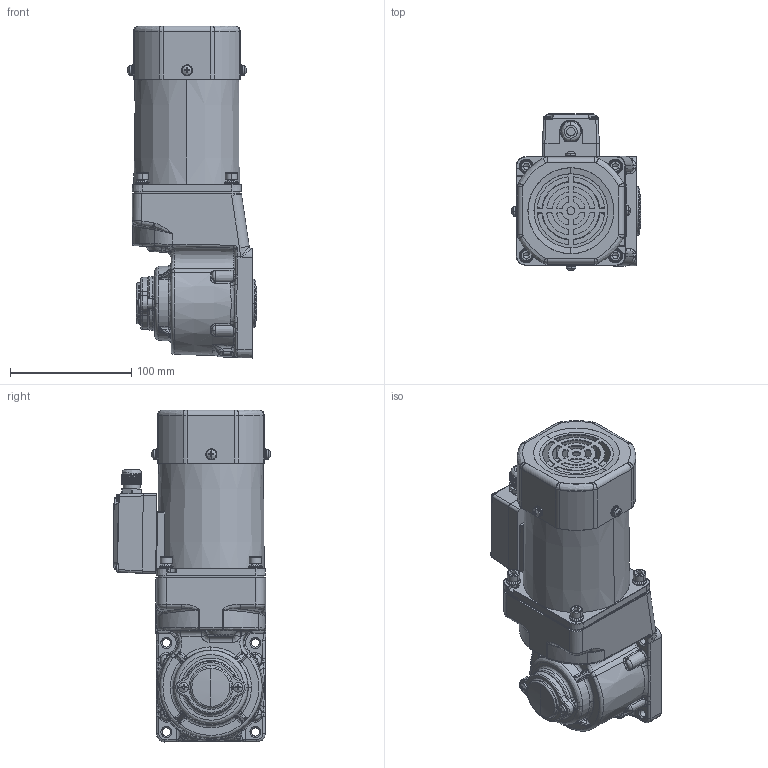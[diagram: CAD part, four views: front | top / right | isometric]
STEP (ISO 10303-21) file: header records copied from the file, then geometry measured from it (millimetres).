
FILE_DESCRIPTION (( 'STEP AP203' ), '1' );
FILE_NAME ('5IK60RGU-CFT(5GU3RC-180RC)ÐÂ.STEP', '2023-08-17T07:23:40', ( 'Windows User' ), ( 'P R C' ), 'SwSTEP 2.0', 'SolidWorks 2019', '' );
FILE_SCHEMA (( 'CONFIG_CONTROL_DESIGN' ));
Length unit declared in the file: millimetre
Products named in the file (9): 90__________^5IK60RGU-CFT(5GU3RC-180RC)陔(2)_5IK60RGU-CFT(5GU3RC-180RC)陔; 90__________-0^5IK60RGU-CFT(5GU3RC-180RC)陔(2)_5IK60RGU-CFT(5GU3RC-180RC)陔; 90RT____________^5IK60RGU-CFT(5GU3RC-180RC)ÐÂ(2)_5IK60RGU-CFT(5GU3RC-180RC)ÐÂ; 5IK60RGU-CFT(5GU3RT-180RT)^5IK60RGU-CFT(5GU3RC-180RC)ÐÂ(2)_5IK60RGU-CFT(5GU3RC-180RC)ÐÂ; 5IK60RGU-CFT(5GU3RC-180RC)陔; ZD-5GU50RC-505-003______1^5IK60RGU-CFT(5GU3RC-180RC)陔(2)_5IK60RGU-CFT(5GU3RC-180RC)陔; 5IK60RGU-CFT(5GU3RC-180RC)陔(2)^5IK60RGU-CFT(5GU3RC-180RC)陔; cross recessed pan head screws gb_GB_CROSS_SCREWS_TYPE1 M4X6-6  H type-N^5IK60RGU-CFT(5GU3RC-180RC)ÐÂ(2)_5IK60RGU-CFT(5GU3RC-180RC)ÐÂ; hexagon socket head cap screws gb_GB_FASTENER_SCREWS_HSHCS M5X12-N^5IK60RGU-CFT(5GU3RC-180RC)ÐÂ(2)_5IK60RGU-CFT(5GU3RC-180RC)ÐÂ
Assembly tree (12 placements, depth 3):
  5IK60RGU-CFT(5GU3RC-180RC)陔
    5IK60RGU-CFT(5GU3RC-180RC)陔(2)^5IK60RGU-CFT(5GU3RC-180RC)陔
      90__________^5IK60RGU-CFT(5GU3RC-180RC)陔(2)_5IK60RGU-CFT(5GU3RC-180RC)陔
      90RT____________^5IK60RGU-CFT(5GU3RC-180RC)ÐÂ(2)_5IK60RGU-CFT(5GU3RC-180RC)ÐÂ
      90__________-0^5IK60RGU-CFT(5GU3RC-180RC)陔(2)_5IK60RGU-CFT(5GU3RC-180RC)陔
      hexagon socket head cap screws gb_GB_FASTENER_SCREWS_HSHCS M5X12-N^5IK60RGU-CFT(5GU3RC-180RC)ÐÂ(2)_5IK60RGU-CFT(5GU3RC-180RC)ÐÂ  x4
      ZD-5GU50RC-505-003______1^5IK60RGU-CFT(5GU3RC-180RC)陔(2)_5IK60RGU-CFT(5GU3RC-180RC)陔
      cross recessed pan head screws gb_GB_CROSS_SCREWS_TYPE1 M4X6-6  H type-N^5IK60RGU-CFT(5GU3RC-180RC)ÐÂ(2)_5IK60RGU-CFT(5GU3RC-180RC)ÐÂ  x2
      5IK60RGU-CFT(5GU3RT-180RT)^5IK60RGU-CFT(5GU3RC-180RC)ÐÂ(2)_5IK60RGU-CFT(5GU3RC-180RC)ÐÂ
Bounding box: 106.56 x 129.69 x 274.04 mm (x, y, z)
Volume: 1585835.9 mm3; surface area: 234349.9 mm2
Topology: 48 solids, 48 shells, 3217 faces, 7992 edges, 4793 vertices
Faces by surface type: cylinder 888, cone 829, plane 820, bspline 591, torus 83, sphere 6
Entity records: 126917 total; most frequent: CARTESIAN_POINT 56695, ORIENTED_EDGE 15208, DIRECTION 13716, EDGE_CURVE 7604, AXIS2_PLACEMENT_3D 5482, VERTEX_POINT 4650, EDGE_LOOP 3286, FACE_OUTER_BOUND 3117
